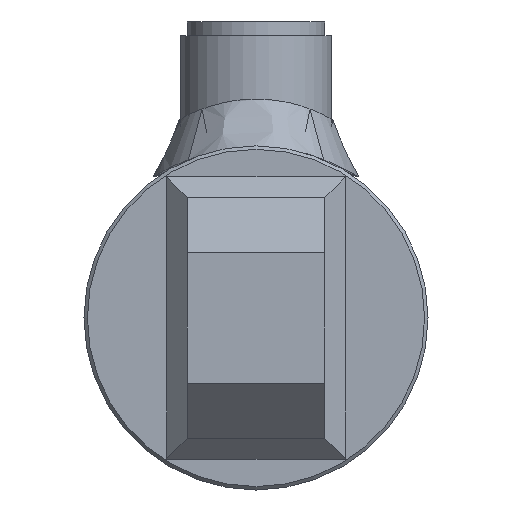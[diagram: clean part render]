
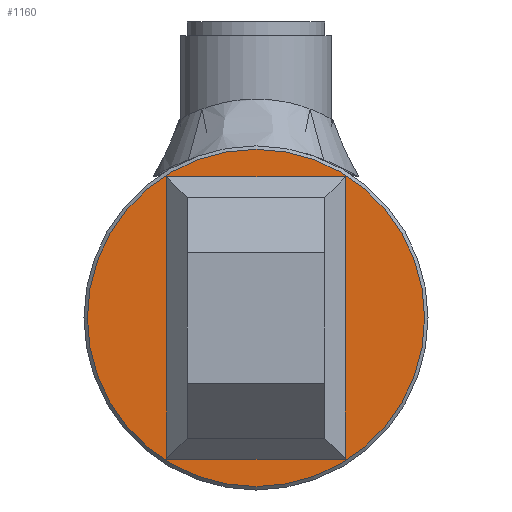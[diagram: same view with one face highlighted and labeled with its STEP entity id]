
A CAD part, left-side view. The second image highlights one B-rep face of the part: STEP entity #1160.
In plain terms, the highlighted planar face has unit normal (-1, 0, 0).
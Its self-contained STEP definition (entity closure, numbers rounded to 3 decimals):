
#1160 = ADVANCED_FACE( '', ( #2158 ), #2159, .T. );
#2158 = FACE_OUTER_BOUND( '', #5069, .T. );
#2159 = PLANE( '', #5070 );
#5069 = EDGE_LOOP( '', ( #6519 ) );
#5070 = AXIS2_PLACEMENT_3D( '', #6520, #6521, #6522 );
#6519 = ORIENTED_EDGE( '', *, *, #7114, .T. );
#6520 = CARTESIAN_POINT( '', ( -10., 0., 0. ) );
#6521 = DIRECTION( '', ( -1., 0., 0. ) );
#6522 = DIRECTION( '', ( 0., -1., 0. ) );
#7114 = EDGE_CURVE( '', #8091, #8091, #8092, .T. );
#8091 = VERTEX_POINT( '', #9806 );
#8092 = CIRCLE( '', #9807, 24.5 );
#9806 = CARTESIAN_POINT( '', ( -10., -24.5, 0. ) );
#9807 = AXIS2_PLACEMENT_3D( '', #10494, #10495, #10496 );
#10494 = CARTESIAN_POINT( '', ( -10., 0., 0. ) );
#10495 = DIRECTION( '', ( -1., 0., 0. ) );
#10496 = DIRECTION( '', ( 0., -1., 0. ) );
